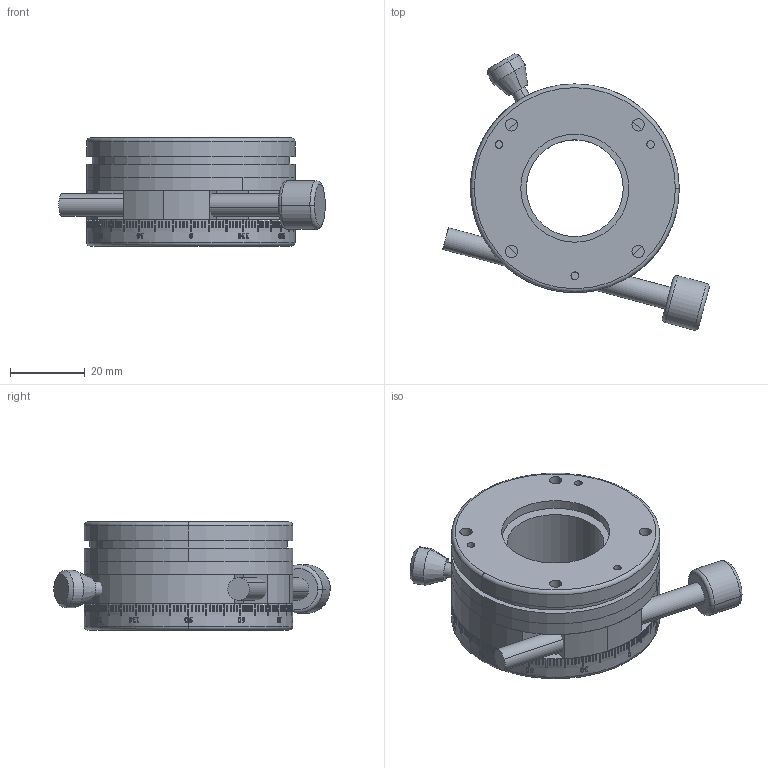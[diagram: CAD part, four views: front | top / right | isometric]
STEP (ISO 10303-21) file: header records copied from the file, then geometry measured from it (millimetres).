
FILE_DESCRIPTION (( 'STEP AP203' ), '1' );
FILE_NAME ('7SRM156Ðý×ªÌ¨.STEP', '2018-09-18T05:28:01', ( '' ), ( '' ), 'SwSTEP 2.0', 'SolidWorks 2014', '' );
FILE_SCHEMA (( 'CONFIG_CONTROL_DESIGN' ));
Length unit declared in the file: millimetre
Products named in the file (1): 7SRM156唅蛌怢
Bounding box: 71.53 x 74.22 x 29 mm (x, y, z)
Surface area: 23340.2 mm2 (no closed solid volume)
Topology: 0 solids, 32 shells, 830 faces, 3200 edges, 2252 vertices
Faces by surface type: plane 610, bspline 109, cylinder 93, torus 14, cone 4
Entity records: 73634 total; most frequent: CARTESIAN_POINT 47768, ORIENTED_EDGE 5165, DIRECTION 4918, EDGE_CURVE 3200, VERTEX_POINT 2252, VECTOR 2060, LINE 2060, AXIS2_PLACEMENT_3D 1429
